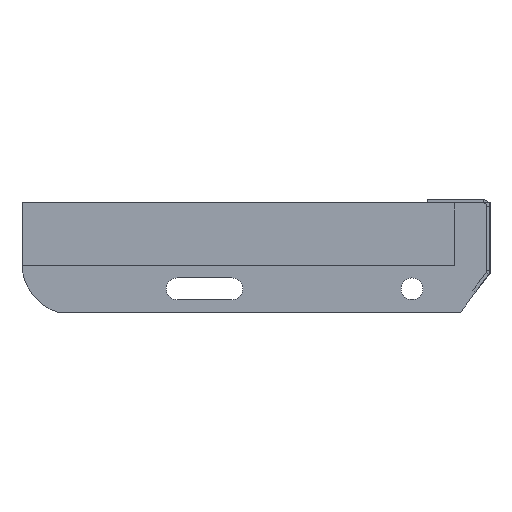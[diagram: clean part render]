
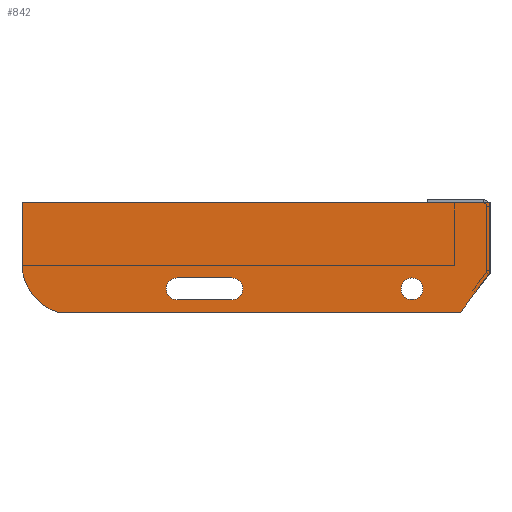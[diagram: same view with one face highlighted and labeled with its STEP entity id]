
A CAD part, left-side view. The second image highlights one B-rep face of the part: STEP entity #842.
In plain terms, the highlighted planar face has unit normal (-1, 0, 0) as drawn and (0, 0, 1) by its records, which use the part's own axes.
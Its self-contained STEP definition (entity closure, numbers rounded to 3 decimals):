
#40 = ORIENTED_EDGE ( 'NONE', *, *, #533, .T. ) ;
#51 = CARTESIAN_POINT ( 'NONE',  ( 0., -45., 3. ) ) ;
#66 = VERTEX_POINT ( 'NONE', #834 ) ;
#84 = EDGE_CURVE ( 'NONE', #1864, #711, #1295, .T. ) ;
#85 = DIRECTION ( 'NONE',  ( 1., 0., 0. ) ) ;
#111 = VECTOR ( 'NONE', #972, 1000. ) ;
#142 = VERTEX_POINT ( 'NONE', #956 ) ;
#169 = CARTESIAN_POINT ( 'NONE',  ( -43., -55., 3. ) ) ;
#186 = DIRECTION ( 'NONE',  ( 1., 0., 0. ) ) ;
#215 = CIRCLE ( 'NONE', #1354, 7. ) ;
#223 = EDGE_CURVE ( 'NONE', #1755, #484, #714, .T. ) ;
#240 = FACE_OUTER_BOUND ( 'NONE', #1232, .T. ) ;
#260 = PLANE ( 'NONE',  #1713 ) ;
#263 = CARTESIAN_POINT ( 'NONE',  ( -165.5, -48., 3. ) ) ;
#267 = FACE_BOUND ( 'NONE', #779, .T. ) ;
#299 = CARTESIAN_POINT ( 'NONE',  ( -207.5, -55., 3. ) ) ;
#313 = VECTOR ( 'NONE', #85, 1000. ) ;
#314 = EDGE_CURVE ( 'NONE', #1596, #1260, #215, .T. ) ;
#335 = LINE ( 'NONE', #1259, #111 ) ;
#352 = ORIENTED_EDGE ( 'NONE', *, *, #1128, .F. ) ;
#361 = VERTEX_POINT ( 'NONE', #1729 ) ;
#366 = CARTESIAN_POINT ( 'NONE',  ( 0., 0., 3. ) ) ;
#378 = ORIENTED_EDGE ( 'NONE', *, *, #84, .F. ) ;
#398 = DIRECTION ( 'NONE',  ( 0., 0., 1. ) ) ;
#400 = DIRECTION ( 'NONE',  ( 1., 0., 0. ) ) ;
#405 = FACE_BOUND ( 'NONE', #963, .T. ) ;
#463 = VERTEX_POINT ( 'NONE', #1099 ) ;
#472 = CIRCLE ( 'NONE', #1122, 32.5 ) ;
#479 = AXIS2_PLACEMENT_3D ( 'NONE', #1593, #518, #812 ) ;
#484 = VERTEX_POINT ( 'NONE', #169 ) ;
#518 = DIRECTION ( 'NONE',  ( 0., 0., 1. ) ) ;
#523 = CARTESIAN_POINT ( 'NONE',  ( -300., 0., 3. ) ) ;
#533 = EDGE_CURVE ( 'NONE', #66, #1838, #1087, .T. ) ;
#544 = ORIENTED_EDGE ( 'NONE', *, *, #585, .F. ) ;
#580 = CARTESIAN_POINT ( 'NONE',  ( -267.5, -39., 3. ) ) ;
#585 = EDGE_CURVE ( 'NONE', #463, #1864, #1588, .T. ) ;
#591 = DIRECTION ( 'NONE',  ( 1., 0., 0. ) ) ;
#592 = CARTESIAN_POINT ( 'NONE',  ( 0., -45., 3. ) ) ;
#594 = ORIENTED_EDGE ( 'NONE', *, *, #1783, .T. ) ;
#621 = EDGE_CURVE ( 'NONE', #1838, #142, #1765, .T. ) ;
#629 = VECTOR ( 'NONE', #1641, 1000. ) ;
#633 = EDGE_CURVE ( 'NONE', #142, #1298, #335, .T. ) ;
#645 = LINE ( 'NONE', #523, #1454 ) ;
#649 = DIRECTION ( 'NONE',  ( 0., 0., 1. ) ) ;
#670 = DIRECTION ( 'NONE',  ( 0.602, 0.799, 0. ) ) ;
#685 = ORIENTED_EDGE ( 'NONE', *, *, #1804, .T. ) ;
#711 = VERTEX_POINT ( 'NONE', #840 ) ;
#714 = CIRCLE ( 'NONE', #1853, 7. ) ;
#735 = AXIS2_PLACEMENT_3D ( 'NONE', #1287, #649, #1143 ) ;
#779 = EDGE_LOOP ( 'NONE', ( #1453, #1721, #352, #378, #544 ) ) ;
#780 = VERTEX_POINT ( 'NONE', #1657 ) ;
#812 = DIRECTION ( 'NONE',  ( 1., 0., 0. ) ) ;
#834 = CARTESIAN_POINT ( 'NONE',  ( -18.839, -70., 3. ) ) ;
#840 = CARTESIAN_POINT ( 'NONE',  ( -200.5, -48., 3. ) ) ;
#842 = ADVANCED_FACE ( 'NONE', ( #240, #405, #267 ), #260, .T. ) ;
#851 = CARTESIAN_POINT ( 'NONE',  ( -18.839, -70., 3. ) ) ;
#894 = DIRECTION ( 'NONE',  ( 0., 0., 1. ) ) ;
#956 = CARTESIAN_POINT ( 'NONE',  ( 0., 0., 3. ) ) ;
#958 = VECTOR ( 'NONE', #1606, 1000. ) ;
#961 = CARTESIAN_POINT ( 'NONE',  ( -200.5, -62., 3. ) ) ;
#963 = EDGE_LOOP ( 'NONE', ( #1240, #1772 ) ) ;
#972 = DIRECTION ( 'NONE',  ( -1., 0., 0. ) ) ;
#973 = CARTESIAN_POINT ( 'NONE',  ( -200.5, -48., 3. ) ) ;
#998 = ORIENTED_EDGE ( 'NONE', *, *, #1979, .T. ) ;
#1025 = AXIS2_PLACEMENT_3D ( 'NONE', #1611, #1123, #186 ) ;
#1026 = DIRECTION ( 'NONE',  ( 1., 0., 0. ) ) ;
#1070 = ORIENTED_EDGE ( 'NONE', *, *, #621, .T. ) ;
#1087 = LINE ( 'NONE', #51, #1618 ) ;
#1094 = DIRECTION ( 'NONE',  ( 0., -1., 0. ) ) ;
#1099 = CARTESIAN_POINT ( 'NONE',  ( -165.5, -62., 3. ) ) ;
#1120 = CIRCLE ( 'NONE', #1025, 7. ) ;
#1122 = AXIS2_PLACEMENT_3D ( 'NONE', #1946, #1798, #400 ) ;
#1123 = DIRECTION ( 'NONE',  ( 0., 0., 1. ) ) ;
#1128 = EDGE_CURVE ( 'NONE', #711, #1596, #1120, .T. ) ;
#1140 = LINE ( 'NONE', #1312, #313 ) ;
#1143 = DIRECTION ( 'NONE',  ( 1., 0., 0. ) ) ;
#1203 = CARTESIAN_POINT ( 'NONE',  ( -50., -55., 3. ) ) ;
#1219 = CIRCLE ( 'NONE', #479, 7. ) ;
#1232 = EDGE_LOOP ( 'NONE', ( #1070, #1635, #685, #998, #594, #40 ) ) ;
#1240 = ORIENTED_EDGE ( 'NONE', *, *, #223, .F. ) ;
#1259 = CARTESIAN_POINT ( 'NONE',  ( 0., 0., 3. ) ) ;
#1260 = VERTEX_POINT ( 'NONE', #961 ) ;
#1269 = DIRECTION ( 'NONE',  ( -1., 0., 0. ) ) ;
#1273 = EDGE_CURVE ( 'NONE', #484, #1755, #1219, .T. ) ;
#1287 = CARTESIAN_POINT ( 'NONE',  ( -165.5, -55., 3. ) ) ;
#1295 = LINE ( 'NONE', #973, #1595 ) ;
#1297 = EDGE_CURVE ( 'NONE', #1260, #463, #1140, .T. ) ;
#1298 = VERTEX_POINT ( 'NONE', #1781 ) ;
#1312 = CARTESIAN_POINT ( 'NONE',  ( -200.5, -62., 3. ) ) ;
#1319 = DIRECTION ( 'NONE',  ( 1., 0., 0. ) ) ;
#1354 = AXIS2_PLACEMENT_3D ( 'NONE', #1493, #894, #591 ) ;
#1410 = LINE ( 'NONE', #851, #629 ) ;
#1453 = ORIENTED_EDGE ( 'NONE', *, *, #1297, .F. ) ;
#1454 = VECTOR ( 'NONE', #1094, 1000. ) ;
#1476 = DIRECTION ( 'NONE',  ( 0., 0., 1. ) ) ;
#1493 = CARTESIAN_POINT ( 'NONE',  ( -200.5, -55., 3. ) ) ;
#1588 = CIRCLE ( 'NONE', #735, 7. ) ;
#1593 = CARTESIAN_POINT ( 'NONE',  ( -50., -55., 3. ) ) ;
#1595 = VECTOR ( 'NONE', #1269, 1000. ) ;
#1596 = VERTEX_POINT ( 'NONE', #299 ) ;
#1606 = DIRECTION ( 'NONE',  ( 0., 1., 0. ) ) ;
#1611 = CARTESIAN_POINT ( 'NONE',  ( -200.5, -55., 3. ) ) ;
#1618 = VECTOR ( 'NONE', #670, 1000. ) ;
#1635 = ORIENTED_EDGE ( 'NONE', *, *, #633, .T. ) ;
#1641 = DIRECTION ( 'NONE',  ( 1., 0., 0. ) ) ;
#1657 = CARTESIAN_POINT ( 'NONE',  ( -300., -39., 3. ) ) ;
#1713 = AXIS2_PLACEMENT_3D ( 'NONE', #580, #1476, #1026 ) ;
#1721 = ORIENTED_EDGE ( 'NONE', *, *, #314, .F. ) ;
#1729 = CARTESIAN_POINT ( 'NONE',  ( -277.26, -70., 3. ) ) ;
#1755 = VERTEX_POINT ( 'NONE', #1935 ) ;
#1765 = LINE ( 'NONE', #366, #958 ) ;
#1772 = ORIENTED_EDGE ( 'NONE', *, *, #1273, .F. ) ;
#1781 = CARTESIAN_POINT ( 'NONE',  ( -300., 0., 3. ) ) ;
#1783 = EDGE_CURVE ( 'NONE', #361, #66, #1410, .T. ) ;
#1798 = DIRECTION ( 'NONE',  ( 0., 0., 1. ) ) ;
#1804 = EDGE_CURVE ( 'NONE', #1298, #780, #645, .T. ) ;
#1838 = VERTEX_POINT ( 'NONE', #592 ) ;
#1853 = AXIS2_PLACEMENT_3D ( 'NONE', #1203, #398, #1319 ) ;
#1864 = VERTEX_POINT ( 'NONE', #263 ) ;
#1935 = CARTESIAN_POINT ( 'NONE',  ( -57., -55., 3. ) ) ;
#1946 = CARTESIAN_POINT ( 'NONE',  ( -267.5, -39., 3. ) ) ;
#1979 = EDGE_CURVE ( 'NONE', #780, #361, #472, .T. ) ;
